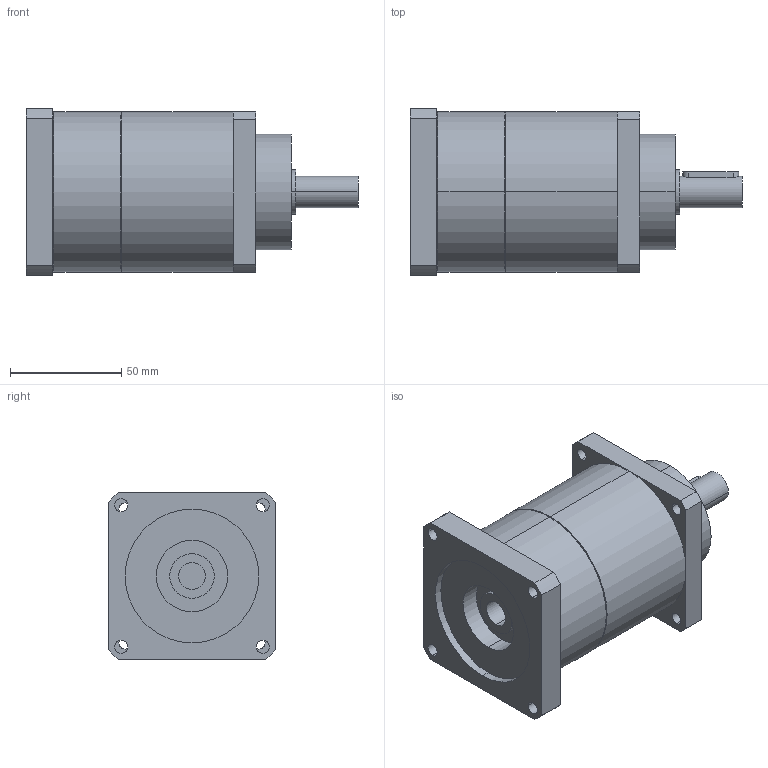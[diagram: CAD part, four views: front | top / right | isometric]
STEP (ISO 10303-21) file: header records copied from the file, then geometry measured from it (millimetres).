
FILE_DESCRIPTION(('CoCreate Modeling STEP Export'),'2;1');
FILE_NAME('GPT75_ig-9-12-16-20-25-28-35-40-50-70-100_14_B5T_12_P15.stp','2014-08-27T13:36:45',(''),(''),'CoCreate Modeling STEP processor for AP214 (Solid Model)','CoCreate Modeling 16.00C 25-Feb-2009 (C) Parametric Technology GmbH','');
FILE_SCHEMA(('AUTOMOTIVE_DESIGN { 1 0 10303 214 1 1 1 1 }'));
Length unit declared in the file: millimetre
Products named in the file (2): GPT75_ig-9-12-16-20-25-28-35-40-50-70-100_14_B5T_12_P15
Assembly tree (1 placements, depth 2):
  GPT75_ig-9-12-16-20-25-28-35-40-50-70-100_14_B5T_12_P15
    GPT75_ig-9-12-16-20-25-28-35-40-50-70-100_14_B5T_12_P15
Bounding box: 149 x 75 x 75 mm (x, y, z)
Volume: 465856.9 mm3; surface area: 46659.4 mm2
Topology: 1 solids, 1 shells, 77 faces, 194 edges, 129 vertices
Faces by surface type: cylinder 46, plane 27, cone 4
Entity records: 2484 total; most frequent: CARTESIAN_POINT 719, ORIENTED_EDGE 388, DIRECTION 320, EDGE_CURVE 194, VERTEX_POINT 129, AXIS2_PLACEMENT_3D 118, EDGE_LOOP 103, VECTOR 84
